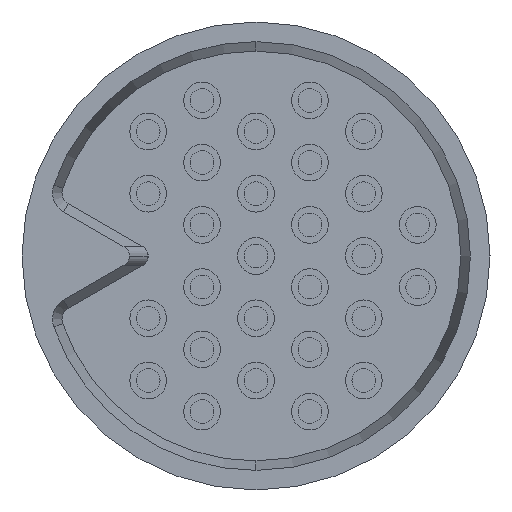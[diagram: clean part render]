
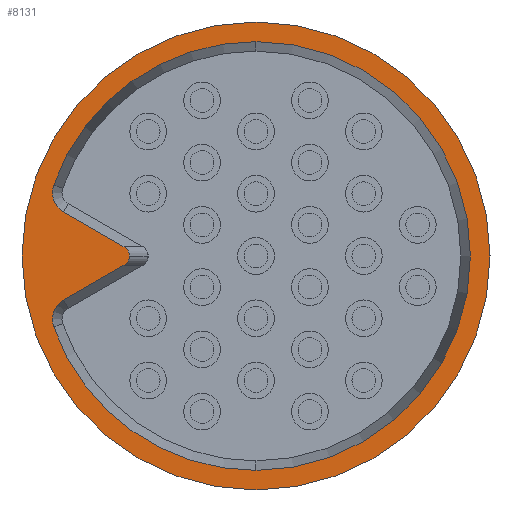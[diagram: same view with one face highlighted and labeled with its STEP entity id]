
A CAD part, left-side view. The second image highlights one B-rep face of the part: STEP entity #8131.
In plain terms, the highlighted planar face has unit normal (-1, 0, 0).
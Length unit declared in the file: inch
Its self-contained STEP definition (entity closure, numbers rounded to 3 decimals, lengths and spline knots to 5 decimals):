
#149 = CARTESIAN_POINT ( 'NONE',  ( 0., 0., 0. ) ) ;
#160 = CARTESIAN_POINT ( 'NONE',  ( 0., 0., 0.1085 ) ) ;
#400 = ORIENTED_EDGE ( 'NONE', *, *, #7215, .T. ) ;
#702 =( BOUNDED_CURVE ( )  B_SPLINE_CURVE ( 3, ( #7714, #12692, #11903, #5098 ),
 .UNSPECIFIED., .F., .F. ) 
 B_SPLINE_CURVE_WITH_KNOTS ( ( 4, 4 ),
 ( 3.14159, 4.16305 ),
 .UNSPECIFIED. ) 
 CURVE ( )  GEOMETRIC_REPRESENTATION_ITEM ( )  RATIONAL_B_SPLINE_CURVE ( ( 1., 0.915, 0.915, 1. ) ) 
 REPRESENTATION_ITEM ( '' )  );
#860 = VERTEX_POINT ( 'NONE', #8214 ) ;
#863 = CARTESIAN_POINT ( 'NONE',  ( 0., 0.09381, -0.03288 ) ) ;
#886 = AXIS2_PLACEMENT_3D ( 'NONE', #3127, #10141, #4134 ) ;
#992 = EDGE_CURVE ( 'NONE', #12506, #6374, #702, .T. ) ;
#1061 = VERTEX_POINT ( 'NONE', #7025 ) ;
#1069 = FACE_BOUND ( 'NONE', #9961, .T. ) ;
#1178 = DIRECTION ( 'NONE',  ( 0., 0., -1. ) ) ;
#1330 = CARTESIAN_POINT ( 'NONE',  ( 0., 0., -0.09941 ) ) ;
#1687 = EDGE_CURVE ( 'NONE', #2024, #9558, #5404, .T. ) ;
#1819 = ORIENTED_EDGE ( 'NONE', *, *, #6131, .T. ) ;
#1949 = EDGE_CURVE ( 'NONE', #10701, #10021, #8195, .T. ) ;
#2024 = VERTEX_POINT ( 'NONE', #5361 ) ;
#2273 = CARTESIAN_POINT ( 'NONE',  ( 0., 0., 0. ) ) ;
#2671 = CARTESIAN_POINT ( 'NONE',  ( 0., 0.0612, -0.00426 ) ) ;
#2700 = DIRECTION ( 'NONE',  ( 1., 0., 0. ) ) ;
#2717 = VECTOR ( 'NONE', #10682, 39.37008 ) ;
#2989 = LINE ( 'NONE', #10073, #7994 ) ;
#3000 = DIRECTION ( 'NONE',  ( 1., 0., 0. ) ) ;
#3065 = DIRECTION ( 'NONE',  ( 0., 0.866, 0.5 ) ) ;
#3127 = CARTESIAN_POINT ( 'NONE',  ( 0., 0.08399, -0.02944 ) ) ;
#3287 = DIRECTION ( 'NONE',  ( 0., 0., -1. ) ) ;
#3350 = DIRECTION ( 'NONE',  ( 1., 0., 0. ) ) ;
#3426 = EDGE_CURVE ( 'NONE', #9558, #12506, #6771, .T. ) ;
#3480 = CARTESIAN_POINT ( 'NONE',  ( 0., 0., 0. ) ) ;
#3635 = PLANE ( 'NONE',  #10746 ) ;
#3697 = CARTESIAN_POINT ( 'NONE',  ( 0., 0.05867, -0.00178 ) ) ;
#4037 = VERTEX_POINT ( 'NONE', #12794 ) ;
#4134 = DIRECTION ( 'NONE',  ( 0., 0., -1. ) ) ;
#4259 = VERTEX_POINT ( 'NONE', #160 ) ;
#4493 = DIRECTION ( 'NONE',  ( 0., 0., -1. ) ) ;
#4645 = DIRECTION ( 'NONE',  ( 1., 0., 0. ) ) ;
#4745 = ORIENTED_EDGE ( 'NONE', *, *, #8486, .T. ) ;
#5052 = ORIENTED_EDGE ( 'NONE', *, *, #3426, .T. ) ;
#5098 = CARTESIAN_POINT ( 'NONE',  ( 0., 0.0612, 0.00426 ) ) ;
#5324 = AXIS2_PLACEMENT_3D ( 'NONE', #2273, #9270, #3287 ) ;
#5361 = CARTESIAN_POINT ( 'NONE',  ( 0., 0.08919, -0.02043 ) ) ;
#5404 = LINE ( 'NONE', #9606, #2717 ) ;
#5426 = CIRCLE ( 'NONE', #7804, 0.01041 ) ;
#5620 = CARTESIAN_POINT ( 'NONE',  ( 0., 0., 0. ) ) ;
#5661 = AXIS2_PLACEMENT_3D ( 'NONE', #8710, #2700, #9717 ) ;
#5778 = ORIENTED_EDGE ( 'NONE', *, *, #1687, .T. ) ;
#6131 = EDGE_CURVE ( 'NONE', #10021, #2024, #10719, .T. ) ;
#6220 = CARTESIAN_POINT ( 'NONE',  ( 0., 0.08919, 0.02043 ) ) ;
#6295 = AXIS2_PLACEMENT_3D ( 'NONE', #149, #7182, #1178 ) ;
#6374 = VERTEX_POINT ( 'NONE', #8573 ) ;
#6771 =( BOUNDED_CURVE ( )  B_SPLINE_CURVE ( 3, ( #2671, #9686, #3697, #10711 ),
 .UNSPECIFIED., .F., .F. ) 
 B_SPLINE_CURVE_WITH_KNOTS ( ( 4, 4 ),
 ( 2.12014, 3.14159 ),
 .UNSPECIFIED. ) 
 CURVE ( )  GEOMETRIC_REPRESENTATION_ITEM ( )  RATIONAL_B_SPLINE_CURVE ( ( 1., 0.915, 0.915, 1. ) ) 
 REPRESENTATION_ITEM ( '' )  );
#6875 = ORIENTED_EDGE ( 'NONE', *, *, #10065, .T. ) ;
#7025 = CARTESIAN_POINT ( 'NONE',  ( 0., 0., -0.1085 ) ) ;
#7182 = DIRECTION ( 'NONE',  ( 1., 0., 0. ) ) ;
#7215 = EDGE_CURVE ( 'NONE', #6374, #9585, #2989, .T. ) ;
#7449 = ORIENTED_EDGE ( 'NONE', *, *, #12203, .F. ) ;
#7714 = CARTESIAN_POINT ( 'NONE',  ( 0., 0.05867, 0. ) ) ;
#7804 = AXIS2_PLACEMENT_3D ( 'NONE', #9011, #3000, #10013 ) ;
#7967 = EDGE_LOOP ( 'NONE', ( #11628, #7449 ) ) ;
#7994 = VECTOR ( 'NONE', #3065, 39.37008 ) ;
#8032 = CIRCLE ( 'NONE', #5661, 0.1085 ) ;
#8131 = ADVANCED_FACE ( 'NONE', ( #1069, #8765 ), #3635, .F. ) ;
#8178 = CARTESIAN_POINT ( 'NONE',  ( 0., 0.0612, -0.00426 ) ) ;
#8195 = CIRCLE ( 'NONE', #5324, 0.09941 ) ;
#8203 = AXIS2_PLACEMENT_3D ( 'NONE', #9358, #3350, #10367 ) ;
#8214 = CARTESIAN_POINT ( 'NONE',  ( 0., 0., 0.09941 ) ) ;
#8486 = EDGE_CURVE ( 'NONE', #4037, #860, #10318, .T. ) ;
#8573 = CARTESIAN_POINT ( 'NONE',  ( 0., 0.0612, 0.00426 ) ) ;
#8710 = CARTESIAN_POINT ( 'NONE',  ( 0., 0., 0. ) ) ;
#8765 = FACE_OUTER_BOUND ( 'NONE', #7967, .T. ) ;
#9011 = CARTESIAN_POINT ( 'NONE',  ( 0., 0.08399, 0.02944 ) ) ;
#9027 = ORIENTED_EDGE ( 'NONE', *, *, #1949, .T. ) ;
#9068 = CARTESIAN_POINT ( 'NONE',  ( 0., 0.05867, 0. ) ) ;
#9270 = DIRECTION ( 'NONE',  ( 1., 0., 0. ) ) ;
#9358 = CARTESIAN_POINT ( 'NONE',  ( 0., 0., 0. ) ) ;
#9550 = EDGE_CURVE ( 'NONE', #860, #10701, #10771, .T. ) ;
#9558 = VERTEX_POINT ( 'NONE', #8178 ) ;
#9585 = VERTEX_POINT ( 'NONE', #6220 ) ;
#9606 = CARTESIAN_POINT ( 'NONE',  ( 0., 0.01345, 0.0233 ) ) ;
#9686 = CARTESIAN_POINT ( 'NONE',  ( 0., 0.05959, -0.00333 ) ) ;
#9717 = DIRECTION ( 'NONE',  ( 0., 0., -1. ) ) ;
#9842 = ORIENTED_EDGE ( 'NONE', *, *, #9550, .T. ) ;
#9961 = EDGE_LOOP ( 'NONE', ( #5778, #5052, #11483, #400, #6875, #4745, #9842, #9027, #1819 ) ) ;
#10005 = AXIS2_PLACEMENT_3D ( 'NONE', #3480, #10495, #4493 ) ;
#10013 = DIRECTION ( 'NONE',  ( 0., 0., -1. ) ) ;
#10021 = VERTEX_POINT ( 'NONE', #863 ) ;
#10065 = EDGE_CURVE ( 'NONE', #9585, #4037, #5426, .T. ) ;
#10073 = CARTESIAN_POINT ( 'NONE',  ( 0., 0.01345, -0.0233 ) ) ;
#10141 = DIRECTION ( 'NONE',  ( 1., 0., 0. ) ) ;
#10318 = CIRCLE ( 'NONE', #8203, 0.09941 ) ;
#10367 = DIRECTION ( 'NONE',  ( 0., 0., -1. ) ) ;
#10495 = DIRECTION ( 'NONE',  ( 1., 0., 0. ) ) ;
#10682 = DIRECTION ( 'NONE',  ( 0., -0.866, 0.5 ) ) ;
#10701 = VERTEX_POINT ( 'NONE', #1330 ) ;
#10711 = CARTESIAN_POINT ( 'NONE',  ( 0., 0.05867, 0. ) ) ;
#10719 = CIRCLE ( 'NONE', #886, 0.01041 ) ;
#10746 = AXIS2_PLACEMENT_3D ( 'NONE', #5620, #4645, #11670 ) ;
#10771 = CIRCLE ( 'NONE', #6295, 0.09941 ) ;
#11051 = CIRCLE ( 'NONE', #10005, 0.1085 ) ;
#11452 = EDGE_CURVE ( 'NONE', #4259, #1061, #8032, .T. ) ;
#11483 = ORIENTED_EDGE ( 'NONE', *, *, #992, .T. ) ;
#11628 = ORIENTED_EDGE ( 'NONE', *, *, #11452, .F. ) ;
#11670 = DIRECTION ( 'NONE',  ( 0., 0., -1. ) ) ;
#11903 = CARTESIAN_POINT ( 'NONE',  ( 0., 0.05959, 0.00333 ) ) ;
#12203 = EDGE_CURVE ( 'NONE', #1061, #4259, #11051, .T. ) ;
#12506 = VERTEX_POINT ( 'NONE', #9068 ) ;
#12692 = CARTESIAN_POINT ( 'NONE',  ( 0., 0.05867, 0.00178 ) ) ;
#12794 = CARTESIAN_POINT ( 'NONE',  ( 0., 0.09381, 0.03288 ) ) ;
